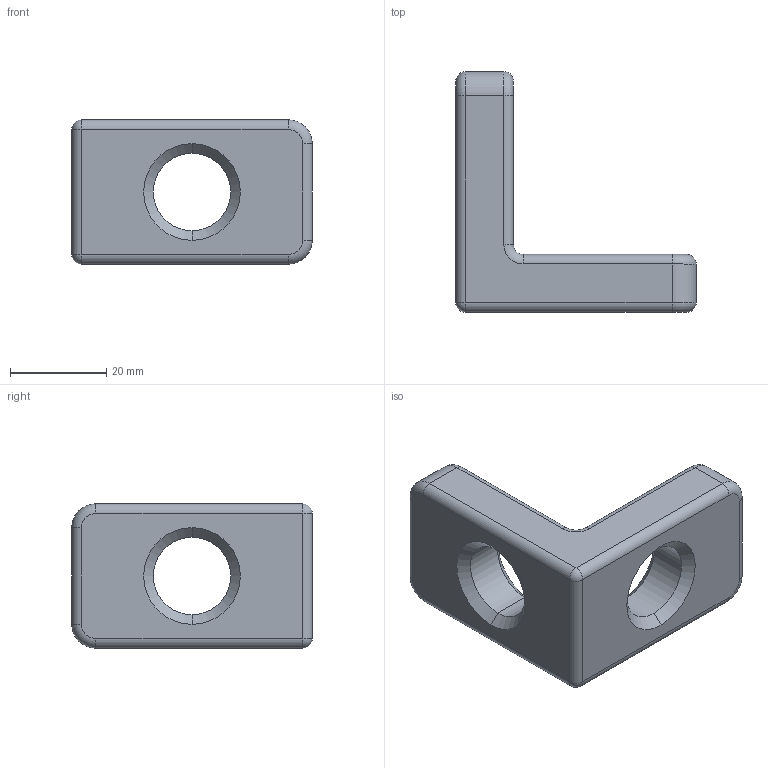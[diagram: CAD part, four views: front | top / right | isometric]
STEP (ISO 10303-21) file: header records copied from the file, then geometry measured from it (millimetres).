
FILE_DESCRIPTION (( 'STEP AP203' ), '1' );
FILE_NAME ('160105_50L.step', '2014-08-08T10:20:31', ( 'User' ), ( '' ), 'SwSTEP 2.0', 'SolidWorks 2014', '' );
FILE_SCHEMA (( 'CONFIG_CONTROL_DESIGN' ));
Length unit declared in the file: millimetre
Products named in the file (1): 160105_50L
Bounding box: 50 x 50 x 30 mm (x, y, z)
Volume: 25715.7 mm3; surface area: 7706.9 mm2
Topology: 1 solids, 1 shells, 50 faces, 116 edges, 66 vertices
Faces by surface type: cylinder 22, torus 10, cone 8, plane 8, sphere 2
Entity records: 1489 total; most frequent: DIRECTION 282, CARTESIAN_POINT 231, ORIENTED_EDGE 228, AXIS2_PLACEMENT_3D 117, EDGE_CURVE 114, VERTEX_POINT 66, CIRCLE 66, EDGE_LOOP 54
